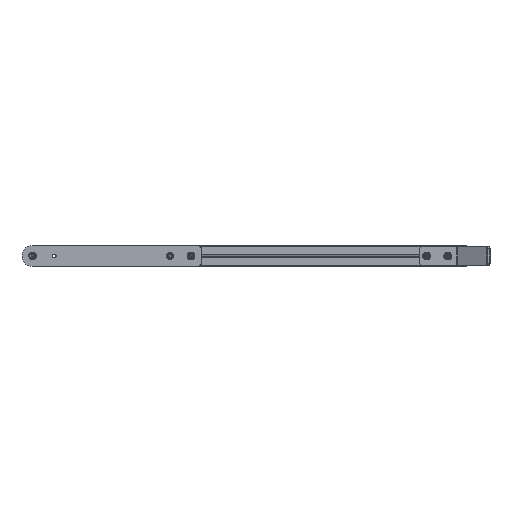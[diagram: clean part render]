
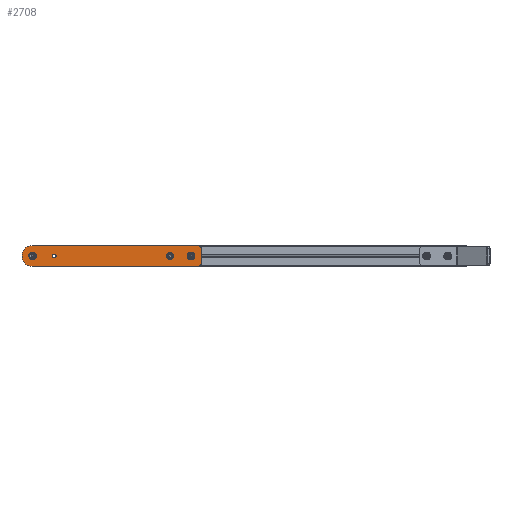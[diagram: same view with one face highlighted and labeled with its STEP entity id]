
A CAD part, left-side view. The second image highlights one B-rep face of the part: STEP entity #2708.
In plain terms, the highlighted planar face has unit normal (-1, 0, 0) as drawn and (0, 0, 1) by its records, which use the part's own axes.
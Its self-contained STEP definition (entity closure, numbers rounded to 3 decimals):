
#122 = CARTESIAN_POINT ( 'NONE',  ( -22.5, -350., 8. ) ) ;
#187 = VERTEX_POINT ( 'NONE', #8676 ) ;
#200 = DIRECTION ( 'NONE',  ( 0., -1., 0. ) ) ;
#304 = FACE_BOUND ( 'NONE', #10306, .T. ) ;
#305 = VERTEX_POINT ( 'NONE', #3097 ) ;
#322 = EDGE_LOOP ( 'NONE', ( #8181 ) ) ;
#324 = VERTEX_POINT ( 'NONE', #1686 ) ;
#809 = DIRECTION ( 'NONE',  ( 0., 0., 1. ) ) ;
#947 = CARTESIAN_POINT ( 'NONE',  ( 22.5, 0., 8. ) ) ;
#958 = ORIENTED_EDGE ( 'NONE', *, *, #8046, .T. ) ;
#974 = ORIENTED_EDGE ( 'NONE', *, *, #9383, .T. ) ;
#988 = DIRECTION ( 'NONE',  ( 0., 1., 0. ) ) ;
#1027 = FACE_BOUND ( 'NONE', #322, .T. ) ;
#1088 = EDGE_CURVE ( 'NONE', #305, #305, #9578, .T. ) ;
#1109 = EDGE_LOOP ( 'NONE', ( #9165 ) ) ;
#1198 = AXIS2_PLACEMENT_3D ( 'NONE', #11501, #9508, #4165 ) ;
#1269 = DIRECTION ( 'NONE',  ( 0., 0., -1. ) ) ;
#1367 = EDGE_CURVE ( 'NONE', #9654, #9654, #2981, .T. ) ;
#1603 = VERTEX_POINT ( 'NONE', #122 ) ;
#1639 = EDGE_CURVE ( 'NONE', #187, #187, #4155, .T. ) ;
#1686 = CARTESIAN_POINT ( 'NONE',  ( -12.5, -360., 8. ) ) ;
#1711 = AXIS2_PLACEMENT_3D ( 'NONE', #9588, #1269, #11520 ) ;
#1955 = EDGE_CURVE ( 'NONE', #7587, #7587, #4037, .T. ) ;
#2053 = DIRECTION ( 'NONE',  ( 1., 0., 0. ) ) ;
#2084 = AXIS2_PLACEMENT_3D ( 'NONE', #11749, #5267, #5205 ) ;
#2144 = VERTEX_POINT ( 'NONE', #6271 ) ;
#2181 = PLANE ( 'NONE',  #1711 ) ;
#2591 = AXIS2_PLACEMENT_3D ( 'NONE', #9697, #5746, #8597 ) ;
#2640 = CARTESIAN_POINT ( 'NONE',  ( 22.5, -350., 8. ) ) ;
#2641 = EDGE_CURVE ( 'NONE', #1603, #324, #2696, .T. ) ;
#2696 = CIRCLE ( 'NONE', #9487, 10. ) ;
#2708 = ADVANCED_FACE ( 'NONE', ( #9342, #9221, #1027, #304, #10490 ), #2181, .F. ) ;
#2981 = CIRCLE ( 'NONE', #6463, 4.25 ) ;
#3097 = CARTESIAN_POINT ( 'NONE',  ( 4.25, -292.5, 8. ) ) ;
#3666 = CARTESIAN_POINT ( 'NONE',  ( 22.5, 0., 8. ) ) ;
#3739 = ORIENTED_EDGE ( 'NONE', *, *, #1088, .F. ) ;
#3841 = LINE ( 'NONE', #10507, #5121 ) ;
#4037 = CIRCLE ( 'NONE', #2084, 4.25 ) ;
#4155 = CIRCLE ( 'NONE', #10930, 4.25 ) ;
#4165 = DIRECTION ( 'NONE',  ( -1., 0., 0. ) ) ;
#4174 = VECTOR ( 'NONE', #988, 1000. ) ;
#4271 = EDGE_LOOP ( 'NONE', ( #3739 ) ) ;
#4445 = VERTEX_POINT ( 'NONE', #10498 ) ;
#4968 = CARTESIAN_POINT ( 'NONE',  ( -12.5, -350., 8. ) ) ;
#5121 = VECTOR ( 'NONE', #200, 1000. ) ;
#5205 = DIRECTION ( 'NONE',  ( 1., 0., 0. ) ) ;
#5267 = DIRECTION ( 'NONE',  ( 0., 0., 1. ) ) ;
#5569 = EDGE_LOOP ( 'NONE', ( #6201, #7780, #974, #9786, #10327, #958 ) ) ;
#5700 = CARTESIAN_POINT ( 'NONE',  ( 0., -337.5, 8. ) ) ;
#5746 = DIRECTION ( 'NONE',  ( 0., 0., 1. ) ) ;
#6039 = DIRECTION ( 'NONE',  ( -1., 0., 0. ) ) ;
#6201 = ORIENTED_EDGE ( 'NONE', *, *, #9430, .T. ) ;
#6271 = CARTESIAN_POINT ( 'NONE',  ( 12.5, -360., 8. ) ) ;
#6463 = AXIS2_PLACEMENT_3D ( 'NONE', #7435, #809, #11851 ) ;
#6579 = LINE ( 'NONE', #8458, #6686 ) ;
#6686 = VECTOR ( 'NONE', #8578, 1000. ) ;
#6711 = CARTESIAN_POINT ( 'NONE',  ( 12.5, -350., 8. ) ) ;
#7007 = EDGE_CURVE ( 'NONE', #4445, #1603, #3841, .T. ) ;
#7011 = DIRECTION ( 'NONE',  ( 0., 0., 1. ) ) ;
#7207 = CIRCLE ( 'NONE', #1198, 22.5 ) ;
#7435 = CARTESIAN_POINT ( 'NONE',  ( 0., -46., 8. ) ) ;
#7528 = DIRECTION ( 'NONE',  ( 0., 0., 1. ) ) ;
#7587 = VERTEX_POINT ( 'NONE', #7644 ) ;
#7644 = CARTESIAN_POINT ( 'NONE',  ( 4.25, 0., 8. ) ) ;
#7780 = ORIENTED_EDGE ( 'NONE', *, *, #7911, .T. ) ;
#7911 = EDGE_CURVE ( 'NONE', #9615, #9174, #10032, .T. ) ;
#7983 = AXIS2_PLACEMENT_3D ( 'NONE', #6711, #11387, #6039 ) ;
#8046 = EDGE_CURVE ( 'NONE', #324, #2144, #6579, .T. ) ;
#8181 = ORIENTED_EDGE ( 'NONE', *, *, #1367, .F. ) ;
#8458 = CARTESIAN_POINT ( 'NONE',  ( -12.5, -360., 8. ) ) ;
#8554 = CARTESIAN_POINT ( 'NONE',  ( 4.25, -46., 8. ) ) ;
#8578 = DIRECTION ( 'NONE',  ( 1., 0., 0. ) ) ;
#8597 = DIRECTION ( 'NONE',  ( 1., 0., 0. ) ) ;
#8676 = CARTESIAN_POINT ( 'NONE',  ( 4.25, -337.5, 8. ) ) ;
#8828 = DIRECTION ( 'NONE',  ( 1., 0., 0. ) ) ;
#9165 = ORIENTED_EDGE ( 'NONE', *, *, #1639, .F. ) ;
#9174 = VERTEX_POINT ( 'NONE', #947 ) ;
#9221 = FACE_BOUND ( 'NONE', #4271, .T. ) ;
#9342 = FACE_BOUND ( 'NONE', #1109, .T. ) ;
#9383 = EDGE_CURVE ( 'NONE', #9174, #4445, #7207, .T. ) ;
#9430 = EDGE_CURVE ( 'NONE', #2144, #9615, #11270, .T. ) ;
#9487 = AXIS2_PLACEMENT_3D ( 'NONE', #4968, #7011, #8828 ) ;
#9508 = DIRECTION ( 'NONE',  ( 0., 0., 1. ) ) ;
#9578 = CIRCLE ( 'NONE', #2591, 4.25 ) ;
#9588 = CARTESIAN_POINT ( 'NONE',  ( 12.5, -350., 8. ) ) ;
#9615 = VERTEX_POINT ( 'NONE', #2640 ) ;
#9654 = VERTEX_POINT ( 'NONE', #8554 ) ;
#9697 = CARTESIAN_POINT ( 'NONE',  ( 0., -292.5, 8. ) ) ;
#9786 = ORIENTED_EDGE ( 'NONE', *, *, #7007, .T. ) ;
#10032 = LINE ( 'NONE', #3666, #4174 ) ;
#10306 = EDGE_LOOP ( 'NONE', ( #11153 ) ) ;
#10327 = ORIENTED_EDGE ( 'NONE', *, *, #2641, .T. ) ;
#10490 = FACE_OUTER_BOUND ( 'NONE', #5569, .T. ) ;
#10498 = CARTESIAN_POINT ( 'NONE',  ( -22.5, 0., 8. ) ) ;
#10507 = CARTESIAN_POINT ( 'NONE',  ( -22.5, 0., 8. ) ) ;
#10930 = AXIS2_PLACEMENT_3D ( 'NONE', #5700, #7528, #2053 ) ;
#11153 = ORIENTED_EDGE ( 'NONE', *, *, #1955, .F. ) ;
#11270 = CIRCLE ( 'NONE', #7983, 10. ) ;
#11387 = DIRECTION ( 'NONE',  ( 0., 0., 1. ) ) ;
#11501 = CARTESIAN_POINT ( 'NONE',  ( 0., 0., 8. ) ) ;
#11520 = DIRECTION ( 'NONE',  ( -1., 0., 0. ) ) ;
#11749 = CARTESIAN_POINT ( 'NONE',  ( 0., 0., 8. ) ) ;
#11851 = DIRECTION ( 'NONE',  ( 1., 0., 0. ) ) ;
